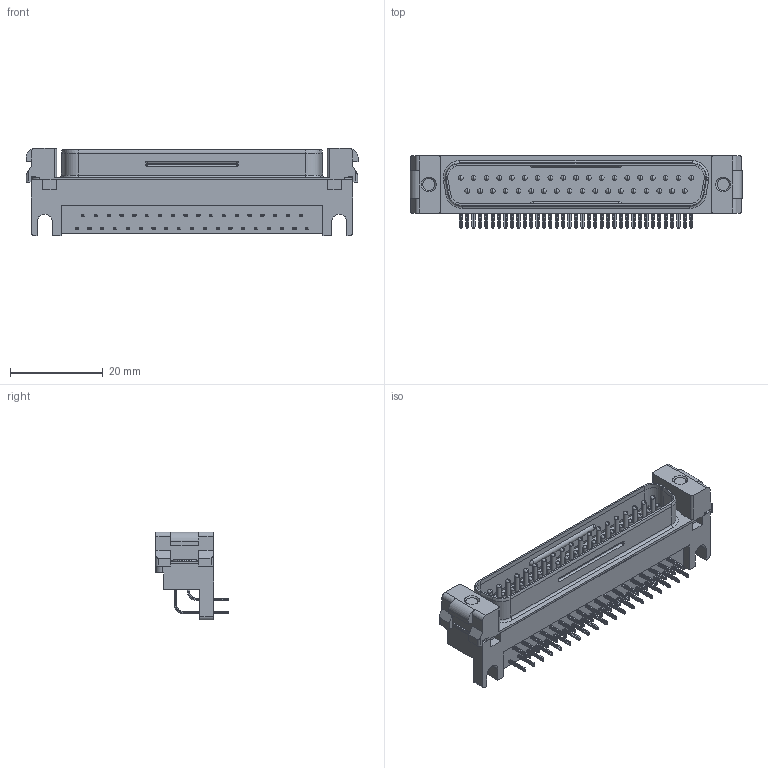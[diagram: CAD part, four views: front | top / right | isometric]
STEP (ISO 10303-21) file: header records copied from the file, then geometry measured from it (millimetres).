
FILE_DESCRIPTION (( 'STEP AP203' ), '1' );
FILE_NAME ('17LE-23370-27(D2A)-FA.STEP', '2022-01-24T11:23:27', ( '' ), ( '' ), 'SwSTEP 2.0', 'SolidWorks 2018', '' );
FILE_SCHEMA (( 'CONFIG_CONTROL_DESIGN' ));
Products named in the file (1): 17LE-23370-27(D2A)-FA
Bounding box: 71.6 x 15.69 x 18.9 mm (x, y, z)
Volume: 6582.4 mm3; surface area: 8110.4 mm2
Topology: 1 solids, 3 shells, 2089 faces, 5734 edges, 3657 vertices
Faces by surface type: plane 968, cylinder 825, torus 210, sphere 78, cone 8
Entity records: 67083 total; most frequent: CARTESIAN_POINT 13001, DIRECTION 11610, ORIENTED_EDGE 11304, EDGE_CURVE 5652, AXIS2_PLACEMENT_3D 4102, VERTEX_POINT 3653, LINE 3406, VECTOR 3406
